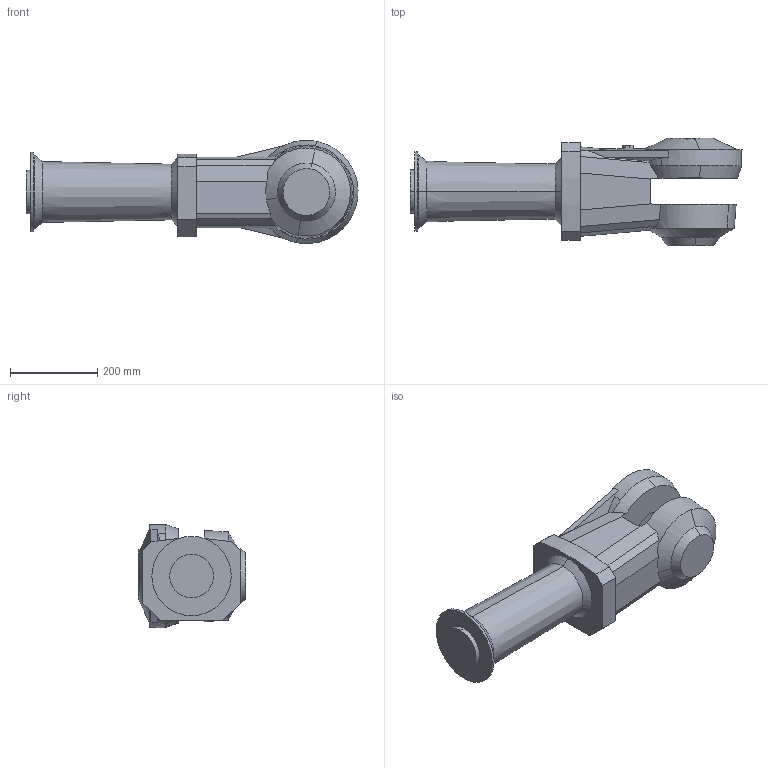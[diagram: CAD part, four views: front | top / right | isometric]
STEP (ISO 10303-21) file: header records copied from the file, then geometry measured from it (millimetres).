
FILE_DESCRIPTION (( 'STEP AP214' ), '1' );
FILE_NAME ('IRB4400_60-195_IRC5_rev02_LINK04_CAD.STEP', '2016-11-03T06:48:51', ( 'ABB' ), ( 'ABB' ), 'SwSTEP 2.0', 'SolidWorks 2014', '' );
FILE_SCHEMA (( 'AUTOMOTIVE_DESIGN' ));
Length unit declared in the file: millimetre
Products named in the file (1): IRB4400_60-195_IRC5_rev02_LINK04_CAD
Bounding box: 760.93 x 245.97 x 236.41 mm (x, y, z)
Volume: 17039954.3 mm3; surface area: 586410.6 mm2
Topology: 1 solids, 1 shells, 119 faces, 313 edges, 198 vertices
Faces by surface type: plane 73, bspline 21, cylinder 13, cone 12
Entity records: 7328 total; most frequent: CARTESIAN_POINT 4601, ORIENTED_EDGE 618, DIRECTION 415, EDGE_CURVE 309, VERTEX_POINT 198, LINE 157, VECTOR 157, AXIS2_PLACEMENT_3D 129
